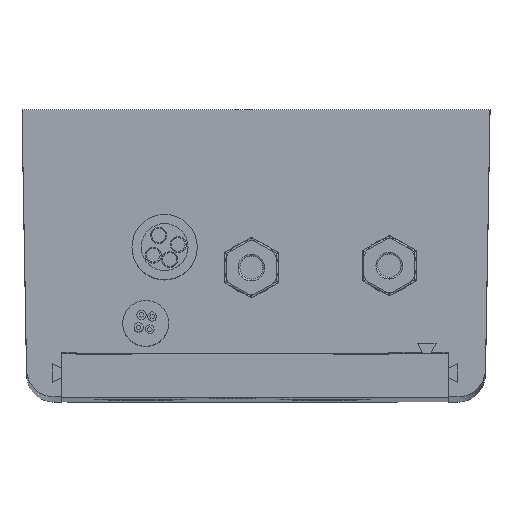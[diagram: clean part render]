
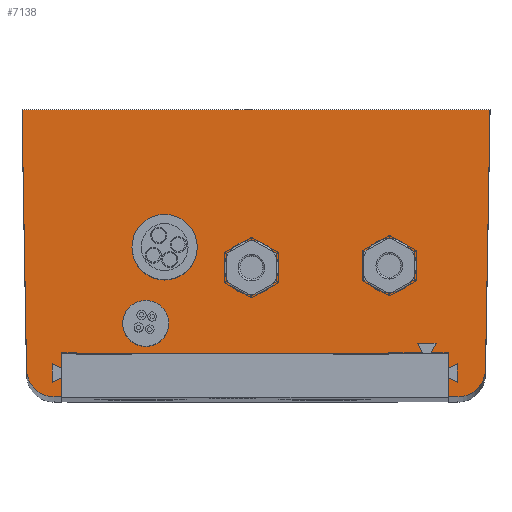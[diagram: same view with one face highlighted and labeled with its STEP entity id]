
A CAD part, top view. The second image highlights one B-rep face of the part: STEP entity #7138.
In plain terms, the highlighted planar face has unit normal (0, 0, 1).
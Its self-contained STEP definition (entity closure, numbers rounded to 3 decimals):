
#44 = EDGE_LOOP ( 'NONE', ( #3315, #10117 ) ) ;
#68 = VECTOR ( 'NONE', #8547, 1000. ) ;
#394 = VERTEX_POINT ( 'NONE', #6494 ) ;
#405 = DIRECTION ( 'NONE',  ( 1., 0., 0. ) ) ;
#457 = CARTESIAN_POINT ( 'NONE',  ( 0.064, 1.831, 0. ) ) ;
#498 = LINE ( 'NONE', #7371, #6807 ) ;
#590 = EDGE_CURVE ( 'NONE', #9349, #11390, #3601, .T. ) ;
#737 = VERTEX_POINT ( 'NONE', #4561 ) ;
#771 = CARTESIAN_POINT ( 'NONE',  ( 3.014, 1.831, 0. ) ) ;
#1040 = LINE ( 'NONE', #12915, #14782 ) ;
#1084 = CARTESIAN_POINT ( 'NONE',  ( 15.063, 2.043, 0. ) ) ;
#1297 = DIRECTION ( 'NONE',  ( 0., 1., 0. ) ) ;
#1341 = FACE_OUTER_BOUND ( 'NONE', #8023, .T. ) ;
#1483 = CARTESIAN_POINT ( 'NONE',  ( 18.013, 2.043, 0. ) ) ;
#1552 = CARTESIAN_POINT ( 'NONE',  ( 25.685, -0.448, 0. ) ) ;
#1567 = EDGE_CURVE ( 'NONE', #11971, #6647, #2920, .T. ) ;
#1910 = CARTESIAN_POINT ( 'NONE',  ( 0., 0., 0. ) ) ;
#1934 = VERTEX_POINT ( 'NONE', #3525 ) ;
#1947 = CARTESIAN_POINT ( 'NONE',  ( -24.437, 19.031, 0. ) ) ;
#1963 = DIRECTION ( 'NONE',  ( 1., 0., 0. ) ) ;
#1998 = VERTEX_POINT ( 'NONE', #8253 ) ;
#2050 = LINE ( 'NONE', #3412, #4225 ) ;
#2088 = VERTEX_POINT ( 'NONE', #7425 ) ;
#2329 = ORIENTED_EDGE ( 'NONE', *, *, #10176, .F. ) ;
#2540 = LINE ( 'NONE', #7216, #7444 ) ;
#2589 = FACE_BOUND ( 'NONE', #5788, .T. ) ;
#2870 = VECTOR ( 'NONE', #13801, 1000. ) ;
#2920 = LINE ( 'NONE', #3546, #8677 ) ;
#3117 = EDGE_CURVE ( 'NONE', #8970, #737, #7028, .T. ) ;
#3121 = LINE ( 'NONE', #1552, #68 ) ;
#3191 = DIRECTION ( 'NONE',  ( 0., 0., 1. ) ) ;
#3250 = AXIS2_PLACEMENT_3D ( 'NONE', #457, #14245, #11883 ) ;
#3315 = ORIENTED_EDGE ( 'NONE', *, *, #3117, .F. ) ;
#3318 = DIRECTION ( 'NONE',  ( 1., 0., 0. ) ) ;
#3401 = CARTESIAN_POINT ( 'NONE',  ( -20.587, -7.469, 0. ) ) ;
#3412 = CARTESIAN_POINT ( 'NONE',  ( -24.437, -12.219, 0. ) ) ;
#3420 = ORIENTED_EDGE ( 'NONE', *, *, #12458, .F. ) ;
#3525 = CARTESIAN_POINT ( 'NONE',  ( -24.406, -9.271, 0. ) ) ;
#3546 = CARTESIAN_POINT ( 'NONE',  ( 21.473, -12.219, 0. ) ) ;
#3601 = CIRCLE ( 'NONE', #4085, 2.95 ) ;
#3661 = VERTEX_POINT ( 'NONE', #11304 ) ;
#4045 = CARTESIAN_POINT ( 'NONE',  ( 21.473, -12.219, 0. ) ) ;
#4085 = AXIS2_PLACEMENT_3D ( 'NONE', #1084, #3191, #13627 ) ;
#4096 = EDGE_CURVE ( 'NONE', #4369, #1934, #498, .T. ) ;
#4151 = ORIENTED_EDGE ( 'NONE', *, *, #10465, .T. ) ;
#4225 = VECTOR ( 'NONE', #3318, 1000. ) ;
#4268 = CARTESIAN_POINT ( 'NONE',  ( 22.532, -9.219, 0. ) ) ;
#4369 = VERTEX_POINT ( 'NONE', #11228 ) ;
#4371 = DIRECTION ( 'NONE',  ( 0., 0., 1. ) ) ;
#4404 = EDGE_CURVE ( 'NONE', #6103, #4369, #10467, .T. ) ;
#4561 = CARTESIAN_POINT ( 'NONE',  ( -2.886, 1.831, 0. ) ) ;
#4906 = CARTESIAN_POINT ( 'NONE',  ( -20.587, -12.219, 0. ) ) ;
#5355 = AXIS2_PLACEMENT_3D ( 'NONE', #1910, #4371, #8941 ) ;
#5545 = ORIENTED_EDGE ( 'NONE', *, *, #4096, .T. ) ;
#5788 = EDGE_LOOP ( 'NONE', ( #6416, #13611 ) ) ;
#6087 = VERTEX_POINT ( 'NONE', #4906 ) ;
#6103 = VERTEX_POINT ( 'NONE', #6112 ) ;
#6112 = CARTESIAN_POINT ( 'NONE',  ( 26.025, 19.031, 0. ) ) ;
#6177 = EDGE_CURVE ( 'NONE', #737, #8970, #12079, .T. ) ;
#6279 = ORIENTED_EDGE ( 'NONE', *, *, #6612, .T. ) ;
#6392 = CARTESIAN_POINT ( 'NONE',  ( 12.113, 2.043, 0. ) ) ;
#6416 = ORIENTED_EDGE ( 'NONE', *, *, #7792, .F. ) ;
#6494 = CARTESIAN_POINT ( 'NONE',  ( 22.532, -12.219, 0. ) ) ;
#6559 = DIRECTION ( 'NONE',  ( 1., 0., 0. ) ) ;
#6612 = EDGE_CURVE ( 'NONE', #11971, #394, #2050, .T. ) ;
#6647 = VERTEX_POINT ( 'NONE', #6865 ) ;
#6807 = VECTOR ( 'NONE', #10824, 1000. ) ;
#6865 = CARTESIAN_POINT ( 'NONE',  ( 21.473, -7.469, 0. ) ) ;
#7028 = CIRCLE ( 'NONE', #9490, 2.95 ) ;
#7032 = AXIS2_PLACEMENT_3D ( 'NONE', #4268, #13353, #6559 ) ;
#7138 = ADVANCED_FACE ( 'NONE', ( #11915, #2589, #1341 ), #9989, .T. ) ;
#7216 = CARTESIAN_POINT ( 'NONE',  ( -24.437, -12.219, 0. ) ) ;
#7309 = AXIS2_PLACEMENT_3D ( 'NONE', #13717, #10262, #12487 ) ;
#7371 = CARTESIAN_POINT ( 'NONE',  ( -24.56, -0.429, 0. ) ) ;
#7374 = CIRCLE ( 'NONE', #7032, 3. ) ;
#7425 = CARTESIAN_POINT ( 'NONE',  ( -20.587, -7.469, 0. ) ) ;
#7444 = VECTOR ( 'NONE', #405, 1000. ) ;
#7494 = EDGE_CURVE ( 'NONE', #1998, #6103, #3121, .T. ) ;
#7568 = ORIENTED_EDGE ( 'NONE', *, *, #14490, .T. ) ;
#7792 = EDGE_CURVE ( 'NONE', #11390, #9349, #14356, .T. ) ;
#7931 = ORIENTED_EDGE ( 'NONE', *, *, #1567, .F. ) ;
#8023 = EDGE_LOOP ( 'NONE', ( #6279, #4151, #13263, #8247, #5545, #7568, #12220, #3420, #2329, #7931 ) ) ;
#8247 = ORIENTED_EDGE ( 'NONE', *, *, #4404, .T. ) ;
#8253 = CARTESIAN_POINT ( 'NONE',  ( 25.531, -9.271, 0. ) ) ;
#8461 = EDGE_CURVE ( 'NONE', #3661, #6087, #2540, .T. ) ;
#8547 = DIRECTION ( 'NONE',  ( 0.017, 1., 0. ) ) ;
#8677 = VECTOR ( 'NONE', #1297, 1000. ) ;
#8762 = AXIS2_PLACEMENT_3D ( 'NONE', #8797, #8853, #1963 ) ;
#8797 = CARTESIAN_POINT ( 'NONE',  ( -21.406, -9.219, 0. ) ) ;
#8853 = DIRECTION ( 'NONE',  ( 0., 0., 1. ) ) ;
#8941 = DIRECTION ( 'NONE',  ( 1., 0., 0. ) ) ;
#8970 = VERTEX_POINT ( 'NONE', #771 ) ;
#9349 = VERTEX_POINT ( 'NONE', #6392 ) ;
#9490 = AXIS2_PLACEMENT_3D ( 'NONE', #14195, #13172, #9795 ) ;
#9795 = DIRECTION ( 'NONE',  ( 1., 0., 0. ) ) ;
#9989 = PLANE ( 'NONE',  #5355 ) ;
#10117 = ORIENTED_EDGE ( 'NONE', *, *, #6177, .F. ) ;
#10176 = EDGE_CURVE ( 'NONE', #6647, #2088, #14288, .T. ) ;
#10262 = DIRECTION ( 'NONE',  ( 0., 0., 1. ) ) ;
#10465 = EDGE_CURVE ( 'NONE', #394, #1998, #7374, .T. ) ;
#10467 = LINE ( 'NONE', #1947, #13294 ) ;
#10824 = DIRECTION ( 'NONE',  ( 0.017, -1., 0. ) ) ;
#11228 = CARTESIAN_POINT ( 'NONE',  ( -24.9, 19.031, 0. ) ) ;
#11304 = CARTESIAN_POINT ( 'NONE',  ( -21.406, -12.219, 0. ) ) ;
#11390 = VERTEX_POINT ( 'NONE', #1483 ) ;
#11883 = DIRECTION ( 'NONE',  ( 1., 0., 0. ) ) ;
#11915 = FACE_BOUND ( 'NONE', #44, .T. ) ;
#11971 = VERTEX_POINT ( 'NONE', #4045 ) ;
#12079 = CIRCLE ( 'NONE', #3250, 2.95 ) ;
#12150 = DIRECTION ( 'NONE',  ( -1., 0., 0. ) ) ;
#12220 = ORIENTED_EDGE ( 'NONE', *, *, #8461, .T. ) ;
#12458 = EDGE_CURVE ( 'NONE', #2088, #6087, #1040, .T. ) ;
#12487 = DIRECTION ( 'NONE',  ( 1., 0., 0. ) ) ;
#12915 = CARTESIAN_POINT ( 'NONE',  ( -20.587, -12.219, 0. ) ) ;
#13172 = DIRECTION ( 'NONE',  ( 0., 0., 1. ) ) ;
#13263 = ORIENTED_EDGE ( 'NONE', *, *, #7494, .T. ) ;
#13294 = VECTOR ( 'NONE', #12150, 1000. ) ;
#13353 = DIRECTION ( 'NONE',  ( 0., 0., 1. ) ) ;
#13498 = CIRCLE ( 'NONE', #8762, 3. ) ;
#13611 = ORIENTED_EDGE ( 'NONE', *, *, #590, .F. ) ;
#13627 = DIRECTION ( 'NONE',  ( 1., 0., 0. ) ) ;
#13717 = CARTESIAN_POINT ( 'NONE',  ( 15.063, 2.043, 0. ) ) ;
#13801 = DIRECTION ( 'NONE',  ( -1., 0., 0. ) ) ;
#14045 = DIRECTION ( 'NONE',  ( 0., -1., 0. ) ) ;
#14195 = CARTESIAN_POINT ( 'NONE',  ( 0.064, 1.831, 0. ) ) ;
#14245 = DIRECTION ( 'NONE',  ( 0., 0., 1. ) ) ;
#14288 = LINE ( 'NONE', #3401, #2870 ) ;
#14356 = CIRCLE ( 'NONE', #7309, 2.95 ) ;
#14490 = EDGE_CURVE ( 'NONE', #1934, #3661, #13498, .T. ) ;
#14782 = VECTOR ( 'NONE', #14045, 1000. ) ;
